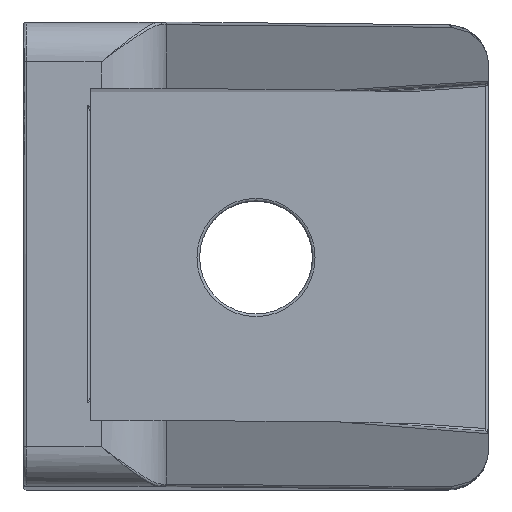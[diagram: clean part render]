
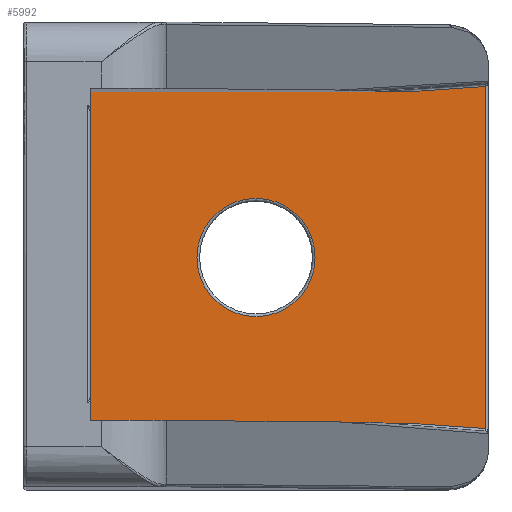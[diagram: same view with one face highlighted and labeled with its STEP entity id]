
A CAD part, top view. The second image highlights one B-rep face of the part: STEP entity #5992.
In plain terms, the highlighted planar face has unit normal (0, 0, 1).
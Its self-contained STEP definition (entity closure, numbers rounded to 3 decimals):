
#104=FACE_BOUND($,#482,.T.);
#140=FACE_OUTER_BOUND($,#481,.T.);
#481=EDGE_LOOP($,(#3962,#3963,#3964,#3965,#3966,#3967));
#482=EDGE_LOOP($,(#3968));
#856=CIRCLE($,#6346,4.45);
#950=LINE($,#8463,#1703);
#959=LINE($,#8491,#1712);
#960=LINE($,#8494,#1713);
#961=LINE($,#8496,#1714);
#962=LINE($,#8497,#1715);
#963=LINE($,#8498,#1716);
#1703=VECTOR($,#6798,24.318);
#1712=VECTOR($,#6819,24.318);
#1713=VECTOR($,#6822,5.495);
#1714=VECTOR($,#6823,25.767);
#1715=VECTOR($,#6824,5.495);
#1716=VECTOR($,#6825,25.);
#2483=VERTEX_POINT($,#8459);
#2485=VERTEX_POINT($,#8462);
#2492=VERTEX_POINT($,#8477);
#2498=VERTEX_POINT($,#8489);
#2499=VERTEX_POINT($,#8493);
#2500=VERTEX_POINT($,#8495);
#2501=VERTEX_POINT($,#8499);
#3058=EDGE_CURVE($,#2483,#2485,#950,.T.);
#3072=EDGE_CURVE($,#2492,#2498,#959,.T.);
#3073=EDGE_CURVE($,#2499,#2483,#960,.T.);
#3074=EDGE_CURVE($,#2500,#2499,#961,.T.);
#3075=EDGE_CURVE($,#2492,#2500,#962,.T.);
#3076=EDGE_CURVE($,#2485,#2498,#963,.T.);
#3077=EDGE_CURVE($,#2501,#2501,#856,.T.);
#3962=ORIENTED_EDGE($,*,*,#3073,.F.);
#3963=ORIENTED_EDGE($,*,*,#3074,.F.);
#3964=ORIENTED_EDGE($,*,*,#3075,.F.);
#3965=ORIENTED_EDGE($,*,*,#3072,.T.);
#3966=ORIENTED_EDGE($,*,*,#3076,.F.);
#3967=ORIENTED_EDGE($,*,*,#3058,.F.);
#3968=ORIENTED_EDGE($,*,*,#3077,.F.);
#5726=PLANE($,#6345);
#5992=ADVANCED_FACE($,(#140,#104),#5726,.T.);
#6345=AXIS2_PLACEMENT_3D($,#8492,#6820,#6821);
#6346=AXIS2_PLACEMENT_3D($,#8500,#6826,#6827);
#6798=DIRECTION($,(-1.,0.,0.));
#6819=DIRECTION($,(-1.,0.,0.));
#6820=DIRECTION('center_axis',(0.,0.,1.));
#6821=DIRECTION('ref_axis',(1.,0.,0.));
#6822=DIRECTION($,(-0.998,0.07,0.));
#6823=DIRECTION($,(0.,-1.,0.));
#6824=DIRECTION($,(0.998,0.07,0.));
#6825=DIRECTION($,(0.,1.,0.));
#6826=DIRECTION('center_axis',(0.,0.,1.));
#6827=DIRECTION('ref_axis',(-1.,0.,0.));
#8459=CARTESIAN_POINT('',(29.318,5.,6.5));
#8462=CARTESIAN_POINT('',(5.,5.,6.5));
#8463=CARTESIAN_POINT($,(35.,5.,6.5));
#8477=CARTESIAN_POINT('',(29.318,30.,6.5));
#8489=CARTESIAN_POINT('',(5.,30.,6.5));
#8491=CARTESIAN_POINT($,(35.,30.,6.5));
#8492=CARTESIAN_POINT('Origin',(17.5,17.5,6.5));
#8493=CARTESIAN_POINT('',(34.8,4.617,6.5));
#8494=CARTESIAN_POINT($,(25.814,5.245,6.5));
#8495=CARTESIAN_POINT('',(34.8,30.383,6.5));
#8496=CARTESIAN_POINT($,(34.8,26.25,6.5));
#8497=CARTESIAN_POINT($,(8.357,28.534,6.5));
#8498=CARTESIAN_POINT($,(5.,23.75,6.5));
#8499=CARTESIAN_POINT('',(21.95,17.5,6.5));
#8500=CARTESIAN_POINT('Origin',(17.5,17.5,6.5));
